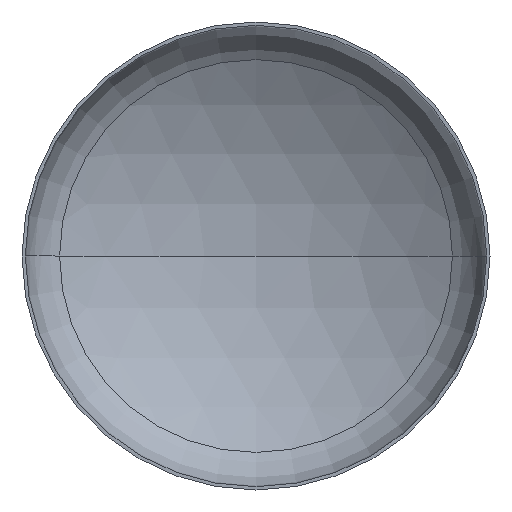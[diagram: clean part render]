
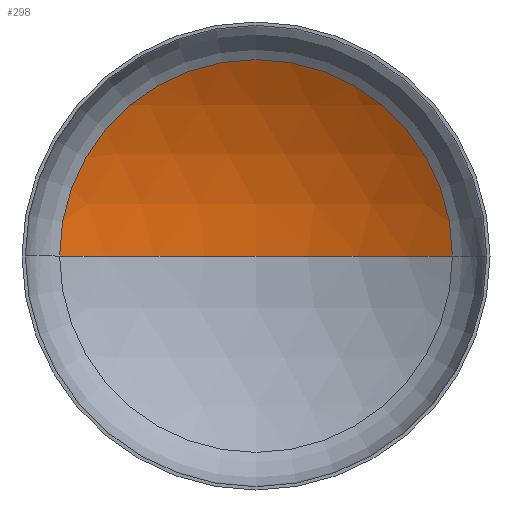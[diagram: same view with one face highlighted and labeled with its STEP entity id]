
A CAD part, front view. The second image highlights one B-rep face of the part: STEP entity #298.
In plain terms, the highlighted spherical face has radius 5200 mm.
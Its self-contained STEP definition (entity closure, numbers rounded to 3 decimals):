
#4 = CARTESIAN_POINT ( 'NONE',  ( 0., -3425.862, 0. ) ) ;
#32 = DIRECTION ( 'NONE',  ( 1., 0., 0. ) ) ;
#34 = VERTEX_POINT ( 'NONE', #206 ) ;
#36 = AXIS2_PLACEMENT_3D ( 'NONE', #341, #343, #189 ) ;
#45 = ORIENTED_EDGE ( 'NONE', *, *, #205, .T. ) ;
#51 = FACE_OUTER_BOUND ( 'NONE', #140, .T. ) ;
#60 = ORIENTED_EDGE ( 'NONE', *, *, #210, .T. ) ;
#84 = SPHERICAL_SURFACE ( 'NONE', #36, 5200. ) ;
#95 = AXIS2_PLACEMENT_3D ( 'NONE', #384, #264, #32 ) ;
#103 = AXIS2_PLACEMENT_3D ( 'NONE', #4, #229, #289 ) ;
#104 = CIRCLE ( 'NONE', #95, 5200. ) ;
#109 = AXIS2_PLACEMENT_3D ( 'NONE', #327, #326, #387 ) ;
#117 = VERTEX_POINT ( 'NONE', #194 ) ;
#119 = ORIENTED_EDGE ( 'NONE', *, *, #215, .F. ) ;
#140 = EDGE_LOOP ( 'NONE', ( #119, #60, #45 ) ) ;
#178 = VERTEX_POINT ( 'NONE', #294 ) ;
#189 = DIRECTION ( 'NONE',  ( -1., 0., 0. ) ) ;
#194 = CARTESIAN_POINT ( 'NONE',  ( 2727.524, 1001.396, 0. ) ) ;
#205 = EDGE_CURVE ( 'NONE', #117, #178, #354, .T. ) ;
#206 = CARTESIAN_POINT ( 'NONE',  ( 0., 1774.138, 0. ) ) ;
#210 = EDGE_CURVE ( 'NONE', #34, #117, #296, .T. ) ;
#215 = EDGE_CURVE ( 'NONE', #34, #178, #104, .T. ) ;
#229 = DIRECTION ( 'NONE',  ( 0., 0., -1. ) ) ;
#264 = DIRECTION ( 'NONE',  ( 0., 0., 1. ) ) ;
#289 = DIRECTION ( 'NONE',  ( -1., 0., 0. ) ) ;
#294 = CARTESIAN_POINT ( 'NONE',  ( -2727.524, 1001.396, 0. ) ) ;
#296 = CIRCLE ( 'NONE', #103, 5200. ) ;
#298 = ADVANCED_FACE ( 'NONE', ( #51 ), #84, .F. ) ;
#326 = DIRECTION ( 'NONE',  ( 0., -1., 0. ) ) ;
#327 = CARTESIAN_POINT ( 'NONE',  ( 0., 1001.396, 0. ) ) ;
#341 = CARTESIAN_POINT ( 'NONE',  ( 0., -3425.862, 0. ) ) ;
#343 = DIRECTION ( 'NONE',  ( 0., 0., -1. ) ) ;
#354 = CIRCLE ( 'NONE', #109, 2727.524 ) ;
#384 = CARTESIAN_POINT ( 'NONE',  ( 0., -3425.862, 0. ) ) ;
#387 = DIRECTION ( 'NONE',  ( 1., 0., 0. ) ) ;
